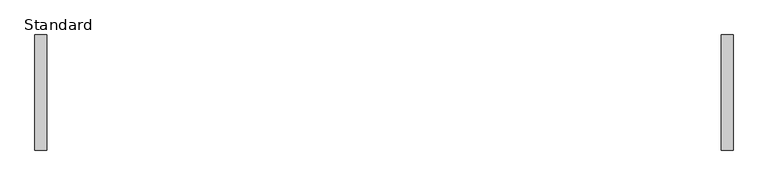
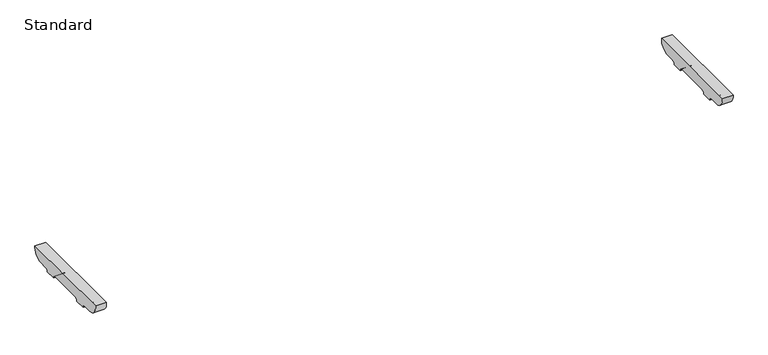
"""IFC4 building model written with IfcOpenShell, lengths in millimetres: furniture geometry, BDG_BossDesign_Tbls_AgentTables4Legs_Nested : Standard."""

from ifc_helpers import new_model, si_unit, point, frame, frame_2d, origin, place, context, project, spatial, polyline, circle_curve, trimmed, segment, composite_curve, outline, extrude, source, transform, mapped, element, save


def standard_f0e4b4a8(model_context):
    return source(origin(), model_context, "Body", "SweptSolid", [
        extrude(outline(composite_curve([segment(polyline([(180.5450184, 672.0), (142.7000122, 672.0)]), True, "CONTINUOUS"), segment(trimmed(circle_curve(frame_2d((142.7000122, 660.0)), 12.0), [point((142.7000122, 672.0))], [point((130.7000122, 660.0))], True, "CARTESIAN"), True, "CONTINUOUS"), segment(polyline([(130.7000122, 660.0), (85.7000122, 660.0)]), True, "CONTINUOUS"), segment(trimmed(circle_curve(frame_2d((73.7000122, 660.0)), 12.0), [point((85.7000122, 660.0))], [point((73.7000122, 672.0))], True, "CARTESIAN"), True, "CONTINUOUS"), segment(polyline([(73.7000122, 672.0), (-73.7000122, 672.0)]), True, "CONTINUOUS"), segment(trimmed(circle_curve(frame_2d((-73.7000122, 660.0)), 12.0), [point((-73.7000122, 672.0))], [point((-85.7000122, 660.0))], True, "CARTESIAN"), True, "CONTINUOUS"), segment(polyline([(-85.7000122, 660.0), (-130.7000122, 660.0)]), True, "CONTINUOUS"), segment(trimmed(circle_curve(frame_2d((-142.7000122, 660.0)), 12.0), [point((-130.7000122, 660.0))], [point((-142.7000122, 672.0))], True, "CARTESIAN"), True, "CONTINUOUS"), segment(polyline([(-142.7000122, 672.0), (-180.5450184, 672.0)]), True, "CONTINUOUS"), segment(trimmed(circle_curve(frame_2d((-178.2220439, 716.5514119)), 44.6119324), [point((-180.5450184, 672.0))], [point((-222.5, 722.0))], False, "CARTESIAN"), True, "CONTINUOUS"), segment(polyline([(-222.5, 722.0), (222.5, 722.0)]), True, "CONTINUOUS"), segment(trimmed(circle_curve(frame_2d((178.2220439, 716.5514119)), 44.6119324), [point((222.5, 722.0))], [point((180.5450184, 672.0))], False, "CARTESIAN"), True, "CONTINUOUS")], self_intersect=False)), frame((1305.0, 0.0, 0.0), z_axis=(1.0, 0.0, 0.0), x_axis=(0.0, 1.0, 0.0)), (0.0, 0.0, 1.0), 45.0),
        extrude(outline(composite_curve([segment(polyline([(180.5450184, 672.0), (142.7000122, 672.0)]), True, "CONTINUOUS"), segment(trimmed(circle_curve(frame_2d((142.7000122, 660.0)), 12.0), [point((142.7000122, 672.0))], [point((130.7000122, 660.0))], True, "CARTESIAN"), True, "CONTINUOUS"), segment(polyline([(130.7000122, 660.0), (85.7000122, 660.0)]), True, "CONTINUOUS"), segment(trimmed(circle_curve(frame_2d((73.7000122, 660.0)), 12.0), [point((85.7000122, 660.0))], [point((73.7000122, 672.0))], True, "CARTESIAN"), True, "CONTINUOUS"), segment(polyline([(73.7000122, 672.0), (-73.7000122, 672.0)]), True, "CONTINUOUS"), segment(trimmed(circle_curve(frame_2d((-73.7000122, 660.0)), 12.0), [point((-73.7000122, 672.0))], [point((-85.7000122, 660.0))], True, "CARTESIAN"), True, "CONTINUOUS"), segment(polyline([(-85.7000122, 660.0), (-130.7000122, 660.0)]), True, "CONTINUOUS"), segment(trimmed(circle_curve(frame_2d((-142.7000122, 660.0)), 12.0), [point((-130.7000122, 660.0))], [point((-142.7000122, 672.0))], True, "CARTESIAN"), True, "CONTINUOUS"), segment(polyline([(-142.7000122, 672.0), (-180.5450184, 672.0)]), True, "CONTINUOUS"), segment(trimmed(circle_curve(frame_2d((-178.2220439, 716.5514119)), 44.6119324), [point((-180.5450184, 672.0))], [point((-222.5, 722.0))], False, "CARTESIAN"), True, "CONTINUOUS"), segment(polyline([(-222.5, 722.0), (222.5, 722.0)]), True, "CONTINUOUS"), segment(trimmed(circle_curve(frame_2d((178.2220439, 716.5514119)), 44.6119324), [point((222.5, 722.0))], [point((180.5450184, 672.0))], False, "CARTESIAN"), True, "CONTINUOUS")], self_intersect=False)), frame((-1350.0, 0.0, 0.0), z_axis=(1.0, 0.0, 0.0), x_axis=(0.0, 1.0, 0.0)), (0.0, 0.0, 1.0), 45.0),
    ])


if __name__ == "__main__":
    model = new_model("IFC4")
    model_context = context("Model", 3, world=origin())
    ifc_project = project(units=[si_unit("LENGTHUNIT", "METRE", prefix="MILLI")], contexts=[model_context])
    site = spatial("IfcSite", under=ifc_project)
    building = spatial("IfcBuilding", under=site)
    placement = place(None, origin())
    standard_shape = standard_f0e4b4a8(model_context)
    element("IfcFurniture", 1, ObjectType="BDG_BossDesign_Tbls_AgentTables4Legs_Nested : Standard", at=placement, inside=building, context=model_context, shape_type="MappedRepresentation", body=[
        mapped(standard_shape, transform((0.0, 0.0, 0.0), x_axis=(1.0, 0.0, 0.0), y_axis=(0.0, 1.0, 0.0), z_axis=(0.0, 0.0, 1.0))),
    ])
    save(model, "model.ifc")
